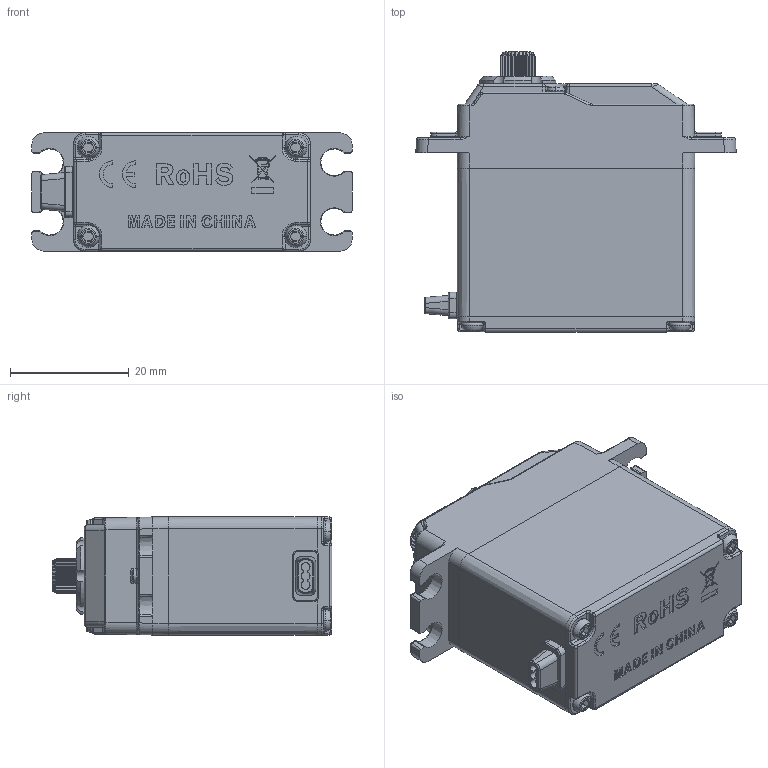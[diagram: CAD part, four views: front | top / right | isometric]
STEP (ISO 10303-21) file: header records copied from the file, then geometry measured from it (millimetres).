
FILE_DESCRIPTION((''),'2;1');
FILE_NAME('DDJ-STDCAR7-B53D','2024-11-29T',('扂'),(''),'PRO/ENGINEER BY PARAMETRIC TECHNOLOGY CORPORATION, 2010280','PRO/ENGINEER BY PARAMETRIC TECHNOLOGY CORPORATION, 2010280','');
FILE_SCHEMA(('CONFIG_CONTROL_DESIGN'));
Length unit declared in the file: millimetre
Products named in the file (1): DDJ-STDCAR7-B53D
Bounding box: 54 x 47.2 x 20 mm (x, y, z)
Volume: 33252.9 mm3; surface area: 7470.8 mm2
Topology: 1 solids, 1 shells, 1079 faces, 2735 edges, 1705 vertices
Faces by surface type: plane 420, cylinder 356, torus 94, bspline 76, extrusion 75, sphere 36, cone 22
Entity records: 38357 total; most frequent: CARTESIAN_POINT 13005, ORIENTED_EDGE 5458, DIRECTION 4984, EDGE_CURVE 2729, AXIS2_PLACEMENT_3D 1716, VERTEX_POINT 1705, VECTOR 1552, LINE 1477
